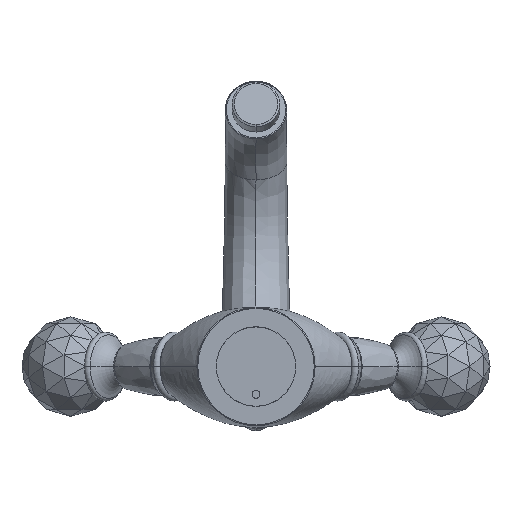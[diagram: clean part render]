
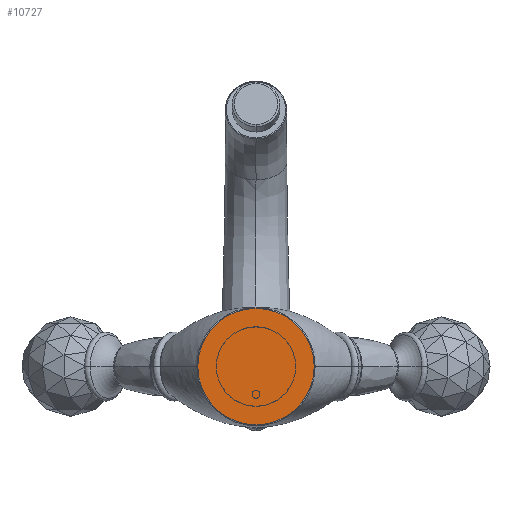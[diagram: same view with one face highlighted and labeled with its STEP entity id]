
A CAD part, front view. The second image highlights one B-rep face of the part: STEP entity #10727.
In plain terms, the highlighted planar face has unit normal (0, -1, 0).
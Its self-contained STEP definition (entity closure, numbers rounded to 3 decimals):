
#1958=CARTESIAN_POINT('',(0.,-7.5,0.));
#1959=DIRECTION('',(0.,-1.,0.));
#1960=DIRECTION('',(0.,0.,1.));
#1961=AXIS2_PLACEMENT_3D('',#1958,#1959,#1960);
#1963=CARTESIAN_POINT('',(0.,-7.5,0.));
#1964=DIRECTION('',(0.,1.,0.));
#1965=DIRECTION('',(0.,0.,1.));
#1966=AXIS2_PLACEMENT_3D('',#1963,#1964,#1965);
#2371=CARTESIAN_POINT('',(0.,-7.5,29.35));
#2372=VERTEX_POINT('',#2371);
#2377=CARTESIAN_POINT('',(0.,-7.5,
-29.35));
#2378=VERTEX_POINT('',#2377);
#10718=CARTESIAN_POINT('',(0.,-7.5,0.));
#10719=DIRECTION('',(0.,1.,0.));
#10720=DIRECTION('',(0.,0.,-1.));
#10721=AXIS2_PLACEMENT_3D('',#10718,#10719,#10720);
#10722=PLANE('',#10721);
#10723=ORIENTED_EDGE('',*,*,#10711,.F.);
#10724=ORIENTED_EDGE('',*,*,#10700,.T.);
#10725=EDGE_LOOP('',(#10723,#10724));
#10726=FACE_OUTER_BOUND('',#10725,.F.);
#10727=ADVANCED_FACE('',(#10726),#10722,.F.);
#1962=CIRCLE('',#1961,29.35);
#1967=CIRCLE('',#1966,29.35);
#10700=EDGE_CURVE('',#2372,#2378,#1967,.T.);
#10711=EDGE_CURVE('',#2372,#2378,#1962,.T.);
